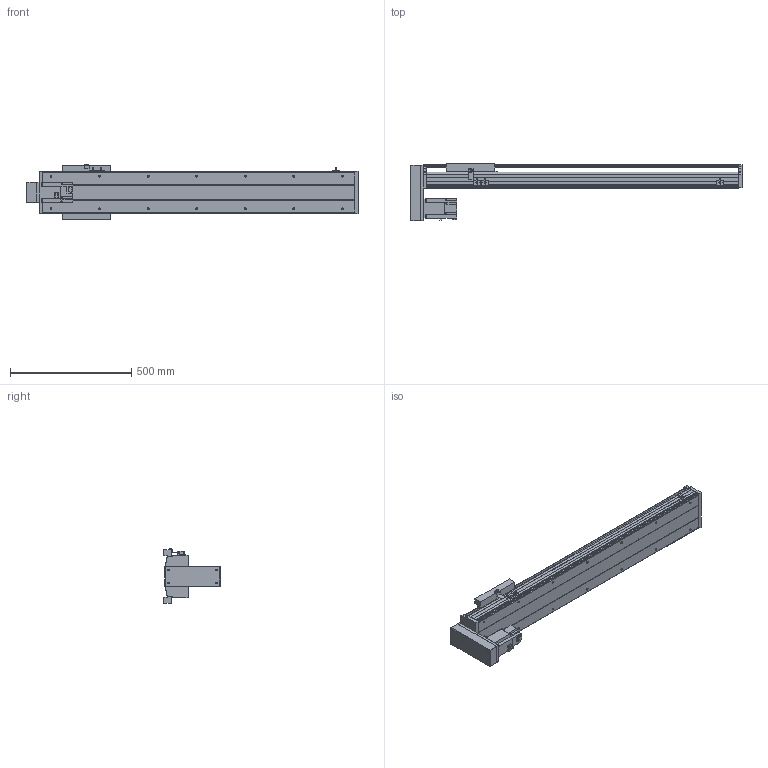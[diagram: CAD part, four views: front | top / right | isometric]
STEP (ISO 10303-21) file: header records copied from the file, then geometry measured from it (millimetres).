
FILE_DESCRIPTION( ( 'STEP AP214' ), '1' );
FILE_NAME( 'x:/temp/worker_27/temp/exporttempdir_6708_428_dG4Z5/format_0/PSS200-L10-S950-BM-T75-C1-N(0).stp', '2022-06-06T02:45:08', ( 'License CC BY-ND 4.0' ), ( 'CADENAS' ), ' ', 'PARTsolutions', ' ' );
FILE_SCHEMA( ( 'AUTOMOTIVE_DESIGN { 1 0 10303 214 1 1 1 1 }' ) );
Length unit declared in the file: millimetre
Products named in the file (8): PSS200-L10-S950-BM-T75-C1-N(0); _PSS200-S950-BM-C1-N_body; _PSS200-N_Q; _PSS200-BM-C1-N_sl; _PSS200-N_sensor; _PSS200BM-N_h; _T75-p1; _PSS200-S950-BM-N_S
Assembly tree (9 placements, depth 2):
  PSS200-L10-S950-BM-T75-C1-N(0)
    _PSS200-S950-BM-C1-N_body
    _PSS200-N_Q
    _PSS200-BM-C1-N_sl
    _PSS200-N_sensor  x3
    _PSS200BM-N_h
    _T75-p1
    _PSS200-S950-BM-N_S
Bounding box: 1366.85 x 234.45 x 223.86 mm (x, y, z)
Volume: 9029667.5 mm3; surface area: 2153628.6 mm2
Topology: 9 solids, 9 shells, 602 faces, 1613 edges, 1070 vertices
Faces by surface type: plane 452, cylinder 124, cone 22, sphere 4
Full cylindrical faces by diameter (mm): 4 x2, 4.5 x4, 6 x7, 6.647 x18, 7.4 x4, 8 x8, 10 x6, 25 x1, 40 x1, 67 x1
Entity records: 21089 total; most frequent: CARTESIAN_POINT 2917, DIRECTION 2767, ORIENTED_EDGE 2734, EDGE_CURVE 1367, LINE 1071, VECTOR 1071, VERTEX_POINT 950, AXIS2_PLACEMENT_3D 848
